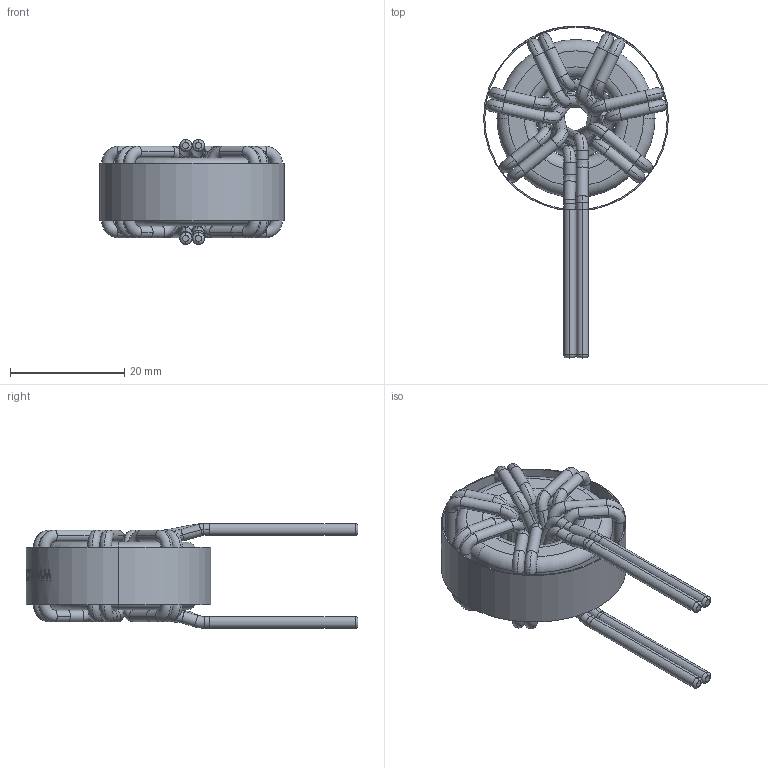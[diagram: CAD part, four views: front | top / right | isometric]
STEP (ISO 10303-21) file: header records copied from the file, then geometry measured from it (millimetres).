
FILE_DESCRIPTION (( 'STEP AP214' ), '1' );
FILE_NAME ('HF270-040M-50AV.STEP', '2022-02-05T11:59:34', ( '' ), ( '' ), 'SwSTEP 2.0', 'SolidWorks 2015', '' );
FILE_SCHEMA (( 'AUTOMOTIVE_DESIGN' ));
Length unit declared in the file: inch
Products named in the file (4): HF270-040M-50AV; Wrapper; Core; winding new
Assembly tree (3 placements, depth 2):
  HF270-040M-50AV
    Core
    winding new
    Wrapper
Bounding box: 32.4 x 58.18 x 18.4 mm (x, y, z)
Volume: 7765.5 mm3; surface area: 9229.2 mm2
Topology: 20 solids, 20 shells, 507 faces, 1317 edges, 866 vertices
Faces by surface type: cylinder 176, torus 134, bspline 119, plane 78
Entity records: 25086 total; most frequent: CARTESIAN_POINT 10309, ORIENTED_EDGE 2634, DIRECTION 2531, EDGE_CURVE 1317, AXIS2_PLACEMENT_3D 1172, VERTEX_POINT 866, CIRCLE 778, EDGE_LOOP 527
